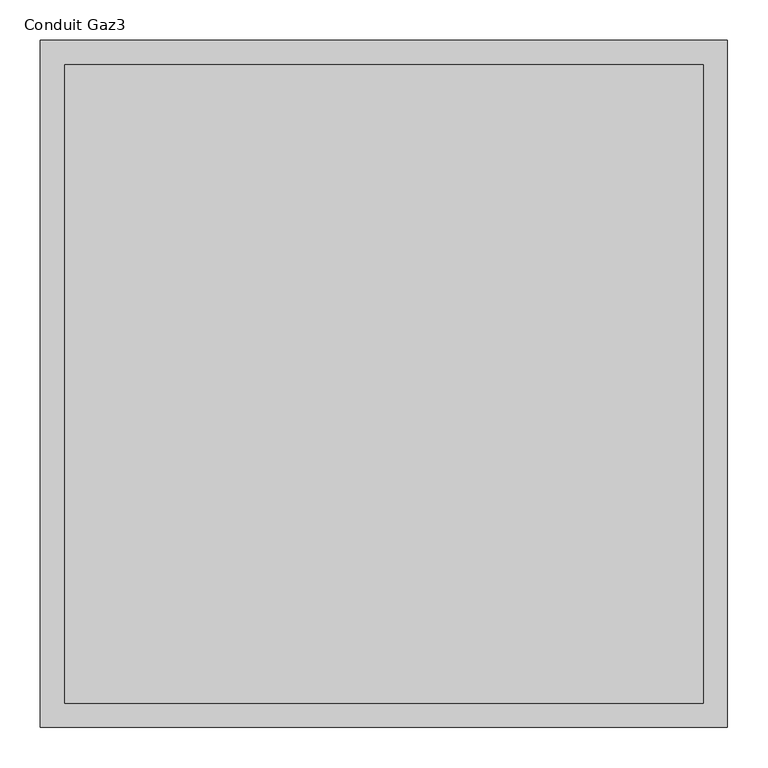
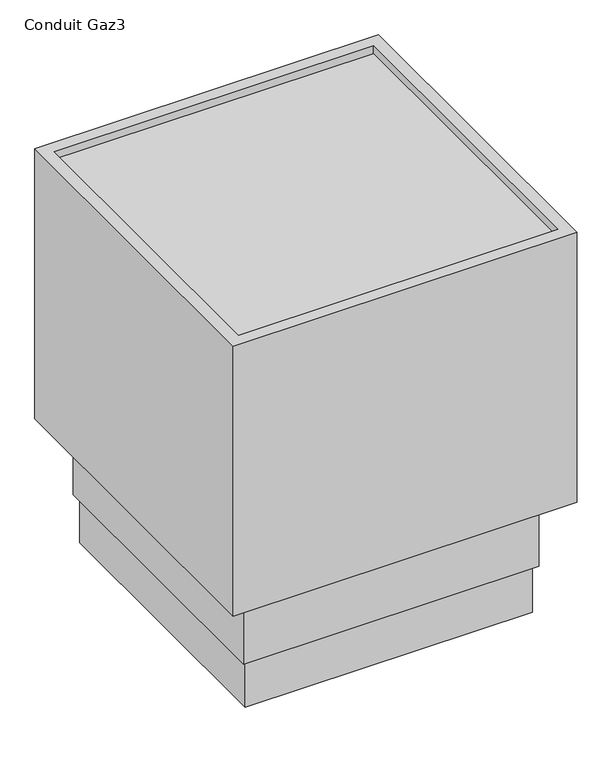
"""IFC4 building model written with IfcOpenShell, lengths in millimetres: proxy geometry, Conduit Gaz3 : Conduit Gaz."""

from ifc_helpers import new_model, si_unit, frame, origin, place, context, project, spatial, polyline, outline, extrude, faceted_brep, source, transform, mapped, element, save


def conduit_gaz3_0d87c948(model_context):
    return source(origin(), model_context, "Body", "SolidModel", [
        extrude(outline(polyline([(-8188.5797273, -8957.9352756), (-8188.5797274, -9667.9352756), (-8898.5797274, -9667.9352754), (-8898.5797273, -8957.9352754), (-8188.5797273, -8957.9352756)])), frame((0.0, 0.0, 10853.3082742), z_axis=(0.0, 0.0, 1.0), x_axis=(1.0, 0.0, 0.0)), (0.0, 0.0, 1.0), 122.7820692),
        faceted_brep([(-8118.5797274, -9737.9352756, 11864.5946753), (-8118.5797272, -8887.9352756, 11864.5946753), (-8968.5797272, -8887.9352754, 11864.5946753), (-8968.5797274, -9737.9352754, 11864.5946753), (-8148.5797272, -8917.9352756, 11864.5946753), (-8148.5797274, -9707.9352756, 11864.5946753), (-8938.5797274, -9707.9352754, 11864.5946753), (-8938.5797272, -8917.9352754, 11864.5946753), (-8118.5797274, -9737.9352756, 11159.0886457), (-8968.5797274, -9737.9352754, 11159.0886457), (-8968.5797272, -8887.9352754, 11159.0886457), (-8118.5797272, -8887.9352756, 11159.0886457), (-8148.5797272, -8917.9352756, 11844.5946753), (-8938.5797272, -8917.9352754, 11844.5946753), (-8938.5797274, -9707.9352754, 11844.5946753), (-8148.5797274, -9707.9352756, 11844.5946753)], [[[0, 1, 2, 3], [4, 5, 6, 7]], [[8, 9, 10, 11]], [[1, 0, 8, 11]], [[2, 1, 11, 10]], [[3, 2, 10, 9]], [[0, 3, 9, 8]], [[12, 13, 14, 15]], [[12, 15, 5, 4]], [[15, 14, 6, 5]], [[14, 13, 7, 6]], [[13, 12, 4, 7]]]),
        extrude(outline(polyline([(-8908.5797273, -8947.9352754), (-8178.5797273, -8947.9352756), (-8178.5797274, -9677.9352756), (-8908.5797274, -9677.9352754), (-8908.5797273, -8947.9352754)])), frame((0.0, 0.0, 10976.0903434), z_axis=(0.0, 0.0, 1.0), x_axis=(1.0, 0.0, 0.0)), (0.0, 0.0, 1.0), 183.0126354),
    ])


if __name__ == "__main__":
    model = new_model("IFC4")
    model_context = context("Model", 3, world=origin())
    ifc_project = project(units=[si_unit("LENGTHUNIT", "METRE", prefix="MILLI")], contexts=[model_context])
    site = spatial("IfcSite", under=ifc_project)
    building = spatial("IfcBuilding", under=site)
    placement = place(None, origin())
    conduit_gaz3_shape = conduit_gaz3_0d87c948(model_context)
    element("IfcBuildingElementProxy", 1, Name="Conduit Gaz3 : Conduit Gaz", ObjectType="Conduit Gaz3 : Conduit Gaz", at=placement, inside=building, context=model_context, shape_type="MappedRepresentation", body=[
        mapped(conduit_gaz3_shape, transform((0.0, 0.0, 0.0), x_axis=(1.0, 0.0, 0.0), y_axis=(0.0, 1.0, 0.0), z_axis=(0.0, 0.0, 1.0))),
    ])
    save(model, "model.ifc")
